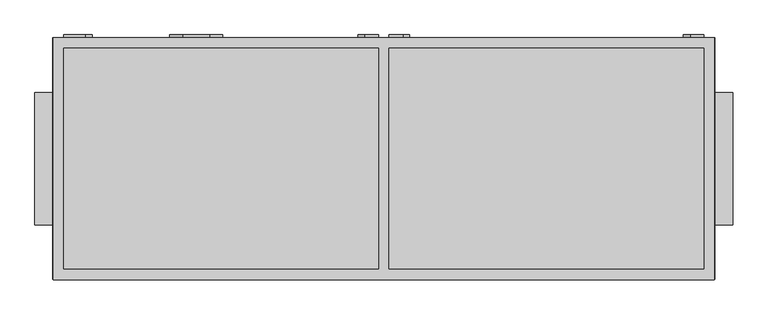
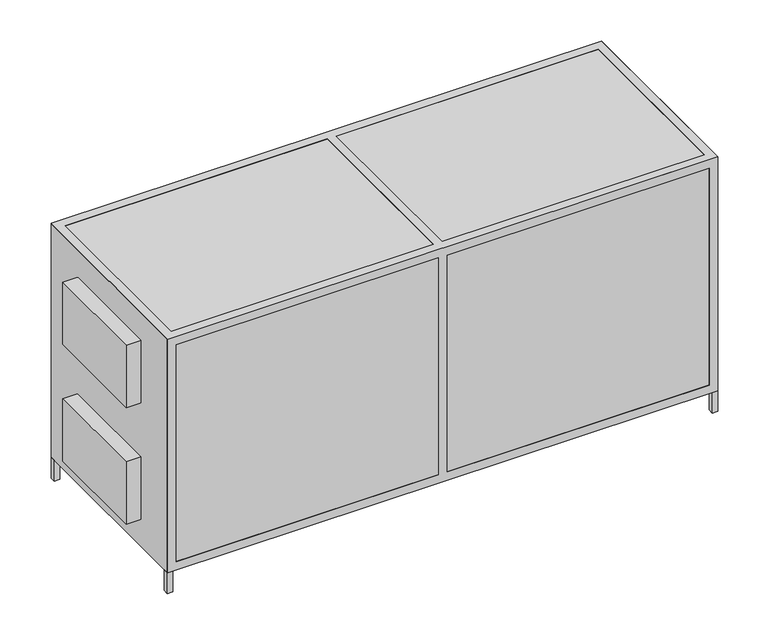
"""IFC4 building model written with IfcOpenShell, lengths in millimetres: proxy geometry, AVS 2200...3800-S-RC(RG)-L : AVS 2900-S-RC-L."""

from ifc_helpers import new_model, si_unit, point, frame, frame_2d, origin, origin_with_axes, place, context, project, spatial, polyline, circle_curve, trimmed, segment, composite_curve, outline, extrude, faceted_brep, source, transform, mapped, element, save


def mechanical_equipment_660908ed(model_context):
    return source(origin(), model_context, "Body", "SolidModel", [
        extrude(outline(polyline([(1225.0, 457.0), (1250.0, 457.0), (1250.0, 432.0), (1225.0, 432.0), (1225.0, 457.0)])), origin_with_axes(), (0.0, 0.0, 1.0), 100.0),
        extrude(outline(polyline([(1225.0, -457.0), (1225.0, -432.0), (1250.0, -432.0), (1250.0, -457.0), (1225.0, -457.0)])), origin_with_axes(), (0.0, 0.0, 1.0), 100.0),
        extrude(outline(polyline([(-1250.0, 432.0), (-1250.0, 457.0), (-1225.0, 457.0), (-1225.0, 432.0), (-1250.0, 432.0)])), origin_with_axes(), (0.0, 0.0, 1.0), 100.0),
        extrude(outline(polyline([(-1250.0, -432.0), (-1225.0, -432.0), (-1225.0, -457.0), (-1250.0, -457.0), (-1250.0, -432.0)])), origin_with_axes(), (0.0, 0.0, 1.0), 100.0),
        faceted_brep([(1249.0, 458.0, 1222.0), (-1249.0, 458.0, 1222.0), (-1249.0, -458.0, 1222.0), (1249.0, -458.0, 1222.0), (-1210.0, 417.0, 1222.0), (-20.0, 417.0, 1222.0), (-20.0, -417.0, 1222.0), (-1210.0, -417.0, 1222.0), (1210.0, 417.0, 1222.0), (1210.0, -417.0, 1222.0), (20.0, -417.0, 1222.0), (20.0, 417.0, 1222.0), (1249.0, 458.0, 99.0), (1249.0, -458.0, 99.0), (-1249.0, -458.0, 99.0), (-1249.0, 458.0, 99.0), (-20.0, 417.0, 99.0), (-1210.0, 417.0, 99.0), (-1210.0, -417.0, 99.0), (-20.0, -417.0, 99.0), (1210.0, -417.0, 99.0), (1210.0, 417.0, 99.0), (20.0, 417.0, 99.0), (20.0, -417.0, 99.0), (-20.0, 458.0, 1181.0), (-1210.0, 458.0, 1181.0), (-1210.0, 458.0, 140.0), (-20.0, 458.0, 140.0), (1210.0, 458.0, 140.0), (1210.0, 458.0, 1181.0), (20.0, 458.0, 1181.0), (20.0, 458.0, 140.0), (-1249.0, -417.0, 1181.0), (-1249.0, -417.0, 140.0), (-1249.0, 417.0, 140.0), (-1249.0, 417.0, 1181.0), (-1210.0, -458.0, 1181.0), (-20.0, -458.0, 1181.0), (-20.0, -458.0, 140.0), (-1210.0, -458.0, 140.0), (1210.0, -458.0, 1181.0), (1210.0, -458.0, 140.0), (20.0, -458.0, 140.0), (20.0, -458.0, 1181.0), (1249.0, -417.0, 140.0), (1249.0, -417.0, 1181.0), (1249.0, 417.0, 1181.0), (1249.0, 417.0, 140.0), (-1210.0, 417.0, 1181.0), (-20.0, 417.0, 1181.0), (-20.0, 417.0, 140.0), (-1210.0, 417.0, 140.0), (-20.0, -417.0, 1181.0), (-1210.0, -417.0, 1181.0), (-1210.0, -417.0, 140.0), (-20.0, -417.0, 140.0), (1210.0, 417.0, 1181.0), (1210.0, -417.0, 1181.0), (1210.0, -417.0, 140.0), (1210.0, 417.0, 140.0), (20.0, 417.0, 1181.0), (20.0, -417.0, 1181.0), (20.0, -417.0, 140.0), (20.0, 417.0, 140.0)], [[[0, 1, 2, 3], [4, 5, 6, 7], [8, 9, 10, 11]], [[12, 13, 14, 15], [16, 17, 18, 19], [20, 21, 22, 23]], [[1, 0, 12, 15], [24, 25, 26, 27], [28, 29, 30, 31]], [[2, 1, 15, 14], [32, 33, 34, 35]], [[3, 2, 14, 13], [36, 37, 38, 39], [40, 41, 42, 43]], [[0, 3, 13, 12], [44, 45, 46, 47]], [[5, 4, 48, 49]], [[17, 16, 50, 51]], [[7, 6, 52, 53]], [[19, 18, 54, 55]], [[9, 8, 56, 57]], [[21, 20, 58, 59]], [[40, 57, 58, 41]], [[56, 29, 28, 59]], [[35, 48, 53, 32]], [[45, 57, 56, 46]], [[49, 60, 61, 52]], [[51, 34, 33, 54]], [[47, 59, 58, 44]], [[55, 62, 63, 50]], [[36, 53, 52, 37]], [[24, 49, 48, 25]], [[54, 39, 38, 55]], [[50, 27, 26, 51]], [[32, 53, 54, 33]], [[52, 61, 62, 55]], [[44, 58, 57, 45]], [[48, 35, 34, 51]], [[60, 49, 50, 63]], [[59, 47, 46, 56]], [[4, 7, 53, 48]], [[18, 17, 51, 54]], [[53, 36, 39, 54]], [[25, 48, 51, 26]], [[6, 5, 49, 52]], [[16, 19, 55, 50]], [[37, 52, 55, 38]], [[49, 24, 27, 50]], [[8, 11, 60, 56]], [[22, 21, 59, 63]], [[11, 10, 61, 60]], [[23, 22, 63, 62]], [[30, 60, 63, 31]], [[61, 43, 42, 62]], [[10, 9, 57, 61]], [[20, 23, 62, 58]], [[57, 40, 43, 61]], [[29, 56, 60, 30]], [[41, 58, 62, 42]], [[59, 28, 31, 63]]]),
        extrude(outline(polyline([(-1250.0, 457.0), (1250.0, 457.0), (1250.0, -457.0), (-1250.0, -457.0), (-1250.0, 457.0)])), frame((0.0, 0.0, 100.0), z_axis=(0.0, 0.0, 1.0), x_axis=(1.0, 0.0, 0.0)), (0.0, 0.0, 1.0), 1121.0),
        extrude(outline(composite_curve([segment(polyline([(965.75, -1127.2895396), (965.75, -1210.0), (915.75, -1210.0), (915.75, -1127.2895396)]), True, "CONTINUOUS"), segment(trimmed(circle_curve(frame_2d((940.75, -1127.2895396)), 25.0), [point((915.75, -1127.2895396))], [point((965.75, -1127.2895396))], False, "CARTESIAN"), True, "CONTINUOUS")], self_intersect=False)), frame((0.0, 457.0, 0.0), z_axis=(0.0, 1.0, 0.0), x_axis=(0.0, 0.0, 1.0)), (0.0, 0.0, 1.0), 11.0),
        extrude(outline(composite_curve([segment(polyline([(405.25, -1127.2895396), (405.25, -1210.0), (355.25, -1210.0), (355.25, -1127.2895396)]), True, "CONTINUOUS"), segment(trimmed(circle_curve(frame_2d((380.25, -1127.2895396)), 25.0), [point((355.25, -1127.2895396))], [point((405.25, -1127.2895396))], False, "CARTESIAN"), True, "CONTINUOUS")], self_intersect=False)), frame((0.0, 457.0, 0.0), z_axis=(0.0, 1.0, 0.0), x_axis=(0.0, 0.0, 1.0)), (0.0, 0.0, 1.0), 11.0),
        extrude(outline(composite_curve([segment(trimmed(circle_curve(frame_2d((870.75, -72.7104604)), 25.0), [point((895.75, -72.7104604))], [point((845.75, -72.7104604))], False, "CARTESIAN"), True, "CONTINUOUS"), segment(polyline([(845.75, -72.7104604), (845.75, -20.0), (895.75, -20.0), (895.75, -72.7104604)]), True, "CONTINUOUS")], self_intersect=False)), frame((0.0, 457.0, 0.0), z_axis=(0.0, 1.0, 0.0), x_axis=(0.0, 0.0, 1.0)), (0.0, 0.0, 1.0), 11.0),
        extrude(outline(composite_curve([segment(polyline([(425.25, -72.7104604), (425.25, -20.0), (475.25, -20.0), (475.25, -72.7104604)]), True, "CONTINUOUS"), segment(trimmed(circle_curve(frame_2d((450.25, -72.7104604)), 25.0), [point((475.25, -72.7104604))], [point((425.25, -72.7104604))], False, "CARTESIAN"), True, "CONTINUOUS")], self_intersect=False)), frame((0.0, 457.0, 0.0), z_axis=(0.0, 1.0, 0.0), x_axis=(0.0, 0.0, 1.0)), (0.0, 0.0, 1.0), 11.0),
        extrude(outline(composite_curve([segment(trimmed(circle_curve(frame_2d((1090.75, 1157.2895396)), 25.0), [point((1115.75, 1157.2895396))], [point((1065.75, 1157.2895396))], False, "CARTESIAN"), True, "CONTINUOUS"), segment(polyline([(1065.75, 1157.2895396), (1065.75, 1210.0), (1115.75, 1210.0), (1115.75, 1157.2895396)]), True, "CONTINUOUS")], self_intersect=False)), frame((0.0, 457.0, 0.0), z_axis=(0.0, 1.0, 0.0), x_axis=(0.0, 0.0, 1.0)), (0.0, 0.0, 1.0), 11.0),
        extrude(outline(composite_curve([segment(polyline([(205.25, 1157.2895396), (205.25, 1210.0), (255.25, 1210.0), (255.25, 1157.2895396)]), True, "CONTINUOUS"), segment(trimmed(circle_curve(frame_2d((230.25, 1157.2895396)), 25.0), [point((255.25, 1157.2895396))], [point((205.25, 1157.2895396))], False, "CARTESIAN"), True, "CONTINUOUS")], self_intersect=False)), frame((0.0, 457.0, 0.0), z_axis=(0.0, 1.0, 0.0), x_axis=(0.0, 0.0, 1.0)), (0.0, 0.0, 1.0), 11.0),
        extrude(outline(composite_curve([segment(polyline([(1015.75, 72.7104604), (1015.75, 20.0), (965.75, 20.0), (965.75, 72.7104604)]), True, "CONTINUOUS"), segment(trimmed(circle_curve(frame_2d((990.75, 72.7104604)), 25.0), [point((965.75, 72.7104604))], [point((1015.75, 72.7104604))], False, "CARTESIAN"), True, "CONTINUOUS")], self_intersect=False)), frame((0.0, 457.0, 0.0), z_axis=(0.0, 1.0, 0.0), x_axis=(0.0, 0.0, 1.0)), (0.0, 0.0, 1.0), 11.0),
        extrude(outline(composite_curve([segment(trimmed(circle_curve(frame_2d((330.25, 72.7104604)), 25.0), [point((305.25, 72.7104604))], [point((355.25, 72.7104604))], False, "CARTESIAN"), True, "CONTINUOUS"), segment(polyline([(355.25, 72.7104604), (355.25, 20.0), (305.25, 20.0), (305.25, 72.7104604)]), True, "CONTINUOUS")], self_intersect=False)), frame((0.0, 457.0, 0.0), z_axis=(0.0, 1.0, 0.0), x_axis=(0.0, 0.0, 1.0)), (0.0, 0.0, 1.0), 11.0),
        extrude(outline(composite_curve([segment(polyline([(1064.7031077, -658.4249776), (1064.7031077, -758.4249776)]), True, "CONTINUOUS"), segment(trimmed(circle_curve(frame_2d((1014.7031077, -758.4249776)), 50.0), [point((1064.7031077, -758.4249776))], [point((964.7031077, -758.4249776))], False, "CARTESIAN"), True, "CONTINUOUS"), segment(polyline([(964.7031077, -758.4249776), (964.7031077, -658.4249776)]), True, "CONTINUOUS"), segment(trimmed(circle_curve(frame_2d((1014.7031077, -658.4249776)), 50.0), [point((964.7031077, -658.4249776))], [point((1064.7031077, -658.4249776))], False, "CARTESIAN"), True, "CONTINUOUS")], self_intersect=False)), frame((0.0, 457.0, 0.0), z_axis=(0.0, 1.0, 0.0), x_axis=(0.0, 0.0, 1.0)), (0.0, 0.0, 1.0), 11.0),
        extrude(outline(polyline([(-1318.0, -250.0), (-1318.0, 250.0), (-1250.0, 250.0), (-1250.0, -250.0), (-1318.0, -250.0)])), frame((0.0, 0.0, 790.75), z_axis=(0.0, 0.0, 1.0), x_axis=(1.0, 0.0, 0.0)), (0.0, 0.0, 1.0), 300.0),
        extrude(outline(polyline([(-1318.0, -250.0), (-1318.0, 250.0), (-1250.0, 250.0), (-1250.0, -250.0), (-1318.0, -250.0)])), frame((0.0, 0.0, 230.25), z_axis=(0.0, 0.0, 1.0), x_axis=(1.0, 0.0, 0.0)), (0.0, 0.0, 1.0), 300.0),
        extrude(outline(polyline([(1318.0, 250.0), (1318.0, -250.0), (1250.0, -250.0), (1250.0, 250.0), (1318.0, 250.0)])), frame((0.0, 0.0, 790.75), z_axis=(0.0, 0.0, 1.0), x_axis=(1.0, 0.0, 0.0)), (0.0, 0.0, 1.0), 300.0),
        extrude(outline(polyline([(1318.0, 250.0), (1318.0, -250.0), (1250.0, -250.0), (1250.0, 250.0), (1318.0, 250.0)])), frame((0.0, 0.0, 230.25), z_axis=(0.0, 0.0, 1.0), x_axis=(1.0, 0.0, 0.0)), (0.0, 0.0, 1.0), 300.0),
    ])


if __name__ == "__main__":
    model = new_model("IFC4")
    model_context = context("Model", 3, world=origin())
    ifc_project = project(units=[si_unit("LENGTHUNIT", "METRE", prefix="MILLI")], contexts=[model_context])
    site = spatial("IfcSite", under=ifc_project)
    building = spatial("IfcBuilding", under=site)
    placement = place(None, origin())
    mechanical_equipment_shape = mechanical_equipment_660908ed(model_context)
    element("IfcBuildingElementProxy", 1, Name="AVS 2200...3800-S-RC(RG)-L : AVS 2900-S-RC-L", ObjectType="AVS 2200...3800-S-RC(RG)-L : AVS 2900-S-RC-L", at=placement, inside=building, context=model_context, shape_type="MappedRepresentation", body=[
        mapped(mechanical_equipment_shape, transform((0.0, 0.0, 0.0), x_axis=(1.0, 0.0, 0.0), y_axis=(0.0, 1.0, 0.0), z_axis=(0.0, 0.0, 1.0))),
    ])
    save(model, "model.ifc")
